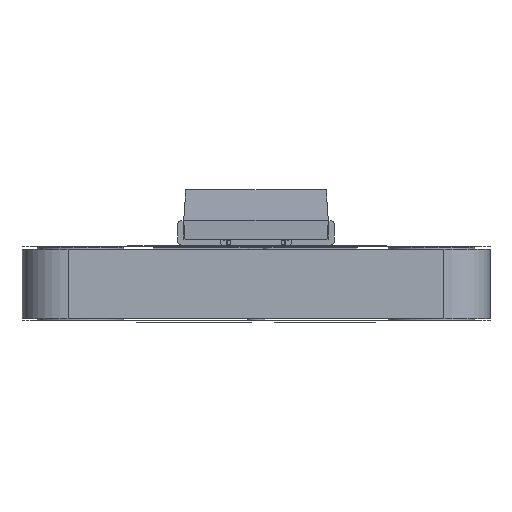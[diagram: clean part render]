
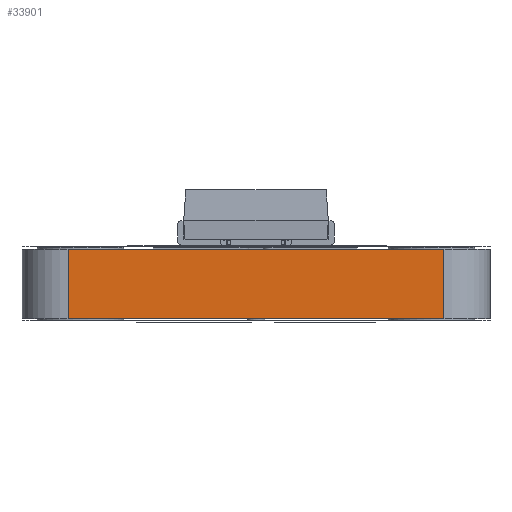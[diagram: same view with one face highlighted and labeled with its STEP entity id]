
A CAD part, front view. The second image highlights one B-rep face of the part: STEP entity #33901.
In plain terms, the highlighted planar face has unit normal (0, -1, 0).
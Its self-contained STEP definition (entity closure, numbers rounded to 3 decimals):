
#33440 = VERTEX_POINT('',#33441);
#33441 = CARTESIAN_POINT('',(-4.08,-7.62,0.));
#33448 = EDGE_CURVE('',#33449,#33440,#33451,.T.);
#33449 = VERTEX_POINT('',#33450);
#33450 = CARTESIAN_POINT('',(4.08,-7.62,0.));
#33451 = LINE('',#33452,#33453);
#33452 = CARTESIAN_POINT('',(4.08,-7.62,0.));
#33453 = VECTOR('',#33454,1.);
#33454 = DIRECTION('',(-1.,0.,0.));
#33657 = VERTEX_POINT('',#33658);
#33658 = CARTESIAN_POINT('',(-4.08,-7.62,1.51));
#33665 = EDGE_CURVE('',#33666,#33657,#33668,.T.);
#33666 = VERTEX_POINT('',#33667);
#33667 = CARTESIAN_POINT('',(4.08,-7.62,1.51));
#33668 = LINE('',#33669,#33670);
#33669 = CARTESIAN_POINT('',(4.08,-7.62,1.51));
#33670 = VECTOR('',#33671,1.);
#33671 = DIRECTION('',(-1.,0.,0.));
#33873 = EDGE_CURVE('',#33449,#33666,#33874,.T.);
#33874 = LINE('',#33875,#33876);
#33875 = CARTESIAN_POINT('',(4.08,-7.62,0.));
#33876 = VECTOR('',#33877,1.);
#33877 = DIRECTION('',(0.,0.,1.));
#33901 = ADVANCED_FACE('',(#33902),#33913,.T.);
#33902 = FACE_BOUND('',#33903,.T.);
#33903 = EDGE_LOOP('',(#33904,#33905,#33906,#33912));
#33904 = ORIENTED_EDGE('',*,*,#33873,.T.);
#33905 = ORIENTED_EDGE('',*,*,#33665,.T.);
#33906 = ORIENTED_EDGE('',*,*,#33907,.F.);
#33907 = EDGE_CURVE('',#33440,#33657,#33908,.T.);
#33908 = LINE('',#33909,#33910);
#33909 = CARTESIAN_POINT('',(-4.08,-7.62,0.));
#33910 = VECTOR('',#33911,1.);
#33911 = DIRECTION('',(0.,0.,1.));
#33912 = ORIENTED_EDGE('',*,*,#33448,.F.);
#33913 = PLANE('',#33914);
#33914 = AXIS2_PLACEMENT_3D('',#33915,#33916,#33917);
#33915 = CARTESIAN_POINT('',(4.08,-7.62,0.));
#33916 = DIRECTION('',(0.,-1.,0.));
#33917 = DIRECTION('',(-1.,0.,0.));
